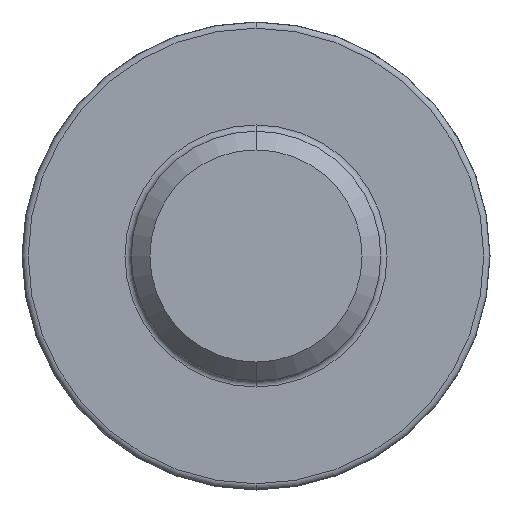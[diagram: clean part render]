
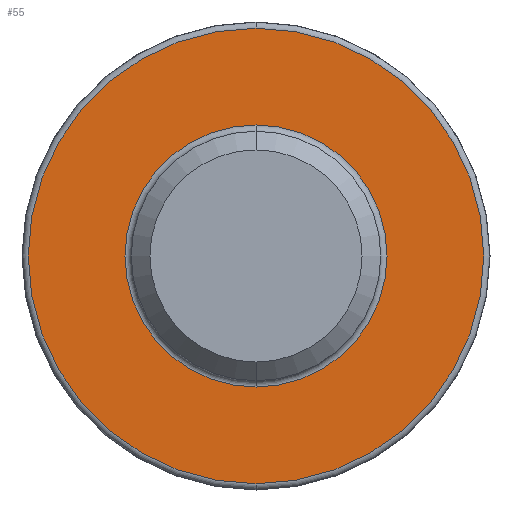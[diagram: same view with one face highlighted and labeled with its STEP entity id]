
A CAD part, front view. The second image highlights one B-rep face of the part: STEP entity #55.
In plain terms, the highlighted planar face has unit normal (0, -1, 0).
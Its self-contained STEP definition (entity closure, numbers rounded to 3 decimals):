
#55 = ADVANCED_FACE ( 'NONE', ( #525, #867 ), #323, .F. ) ;
#65 = DIRECTION ( 'NONE',  ( 0., 0., 1. ) ) ;
#88 = CIRCLE ( 'NONE', #615, 3.65 ) ;
#94 = CARTESIAN_POINT ( 'NONE',  ( 0., -2.4, 0. ) ) ;
#101 = AXIS2_PLACEMENT_3D ( 'NONE', #94, #558, #230 ) ;
#215 = CIRCLE ( 'NONE', #101, 2.1 ) ;
#230 = DIRECTION ( 'NONE',  ( 0., 0., 1. ) ) ;
#239 = CARTESIAN_POINT ( 'NONE',  ( 0., -2.4, 3.65 ) ) ;
#253 = CIRCLE ( 'NONE', #628, 2.1 ) ;
#266 = DIRECTION ( 'NONE',  ( 0., 0., 1. ) ) ;
#270 = ORIENTED_EDGE ( 'NONE', *, *, #295, .T. ) ;
#278 = EDGE_LOOP ( 'NONE', ( #647, #504 ) ) ;
#294 = DIRECTION ( 'NONE',  ( 0., 0., 1. ) ) ;
#295 = EDGE_CURVE ( 'NONE', #706, #743, #768, .T. ) ;
#312 = CARTESIAN_POINT ( 'NONE',  ( 0., -2.4, 0. ) ) ;
#323 = PLANE ( 'NONE',  #703 ) ;
#375 = DIRECTION ( 'NONE',  ( 0., -1., 0. ) ) ;
#394 = EDGE_LOOP ( 'NONE', ( #270, #526 ) ) ;
#421 = VERTEX_POINT ( 'NONE', #649 ) ;
#437 = CARTESIAN_POINT ( 'NONE',  ( 2., -2.4, 0. ) ) ;
#467 = DIRECTION ( 'NONE',  ( 0., 1., 0. ) ) ;
#504 = ORIENTED_EDGE ( 'NONE', *, *, #684, .T. ) ;
#525 = FACE_BOUND ( 'NONE', #278, .T. ) ;
#526 = ORIENTED_EDGE ( 'NONE', *, *, #568, .T. ) ;
#558 = DIRECTION ( 'NONE',  ( 0., 1., 0. ) ) ;
#561 = DIRECTION ( 'NONE',  ( 0., 0., 1. ) ) ;
#563 = AXIS2_PLACEMENT_3D ( 'NONE', #646, #375, #561 ) ;
#568 = EDGE_CURVE ( 'NONE', #743, #706, #88, .T. ) ;
#578 = DIRECTION ( 'NONE',  ( 0., -1., 0. ) ) ;
#581 = EDGE_CURVE ( 'NONE', #613, #421, #253, .T. ) ;
#595 = CARTESIAN_POINT ( 'NONE',  ( 0., -2.4, 2.1 ) ) ;
#613 = VERTEX_POINT ( 'NONE', #595 ) ;
#615 = AXIS2_PLACEMENT_3D ( 'NONE', #312, #578, #294 ) ;
#628 = AXIS2_PLACEMENT_3D ( 'NONE', #687, #467, #266 ) ;
#646 = CARTESIAN_POINT ( 'NONE',  ( 0., -2.4, 0. ) ) ;
#647 = ORIENTED_EDGE ( 'NONE', *, *, #581, .T. ) ;
#649 = CARTESIAN_POINT ( 'NONE',  ( 0., -2.4, -2.1 ) ) ;
#684 = EDGE_CURVE ( 'NONE', #421, #613, #215, .T. ) ;
#687 = CARTESIAN_POINT ( 'NONE',  ( 0., -2.4, 0. ) ) ;
#703 = AXIS2_PLACEMENT_3D ( 'NONE', #437, #793, #65 ) ;
#706 = VERTEX_POINT ( 'NONE', #239 ) ;
#743 = VERTEX_POINT ( 'NONE', #851 ) ;
#768 = CIRCLE ( 'NONE', #563, 3.65 ) ;
#793 = DIRECTION ( 'NONE',  ( 0., 1., 0. ) ) ;
#851 = CARTESIAN_POINT ( 'NONE',  ( 0., -2.4, -3.65 ) ) ;
#867 = FACE_OUTER_BOUND ( 'NONE', #394, .T. ) ;
